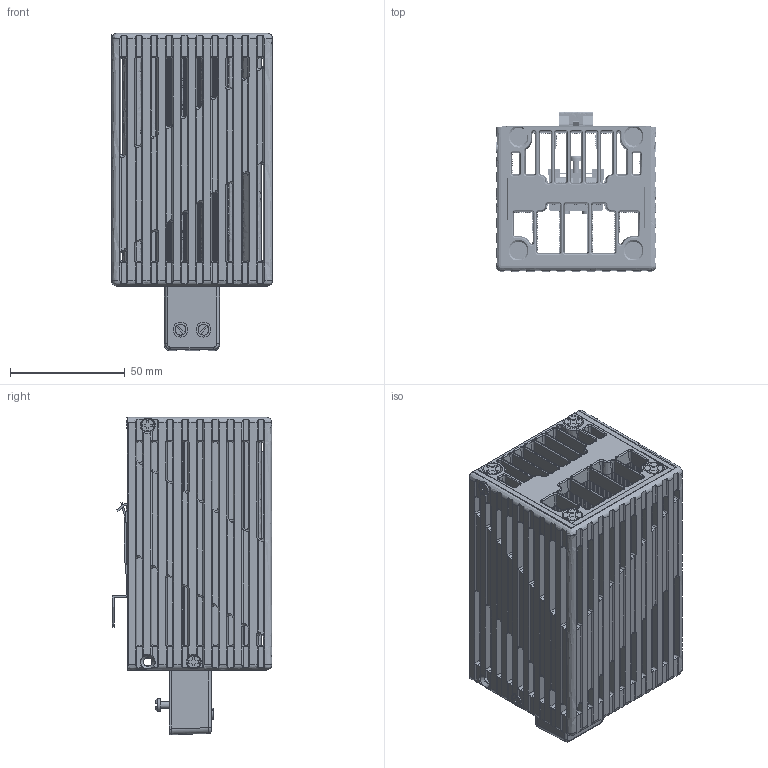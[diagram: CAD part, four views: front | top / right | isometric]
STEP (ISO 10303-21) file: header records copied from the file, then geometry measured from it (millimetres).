
FILE_DESCRIPTION(/* description */ ('Unknown'),/* implementation_level */ '2;1');
FILE_NAME(/* name */ '7H_51_0_230_0100',/* time_stamp */ '2016-11-07T11:00:00+01:00',/* author */ ('Unknown'),/* organization */ ('Unknown'),/* preprocessor_version */ 'ST-DEVELOPER v16',/* originating_system */ 'DEX',/* authorisation */ $);
FILE_SCHEMA (('AUTOMOTIVE_DESIGN {1 0 10303 214 3 1 1}'));
Products named in the file (1): STHT75-100 --- 2 morsetti
Bounding box: 70.03 x 69.35 x 138.13 mm (x, y, z)
Volume: 177472.2 mm3; surface area: 181850.4 mm2
Topology: 21 solids, 22 shells, 2656 faces, 7858 edges, 5141 vertices
Faces by surface type: plane 1999, cylinder 383, bspline 107, cone 97, torus 68, sphere 2
Full cylindrical faces by diameter (mm): 2.5 x1, 2.9 x1, 3 x5, 3.9 x2, 4.2 x4, 4.75 x2, 4.95 x1, 5.5 x1, 6.45 x2
Entity records: 101773 total; most frequent: CARTESIAN_POINT 34016, ORIENTED_EDGE 15494, DIRECTION 11792, EDGE_CURVE 7795, LINE 5650, VECTOR 5650, VERTEX_POINT 5118, AXIS2_PLACEMENT_3D 3071
